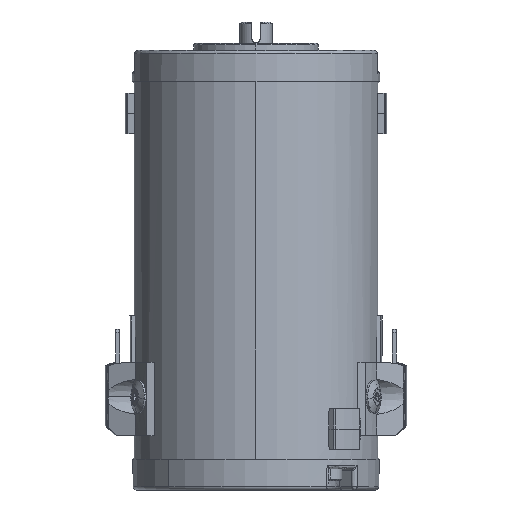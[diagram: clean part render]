
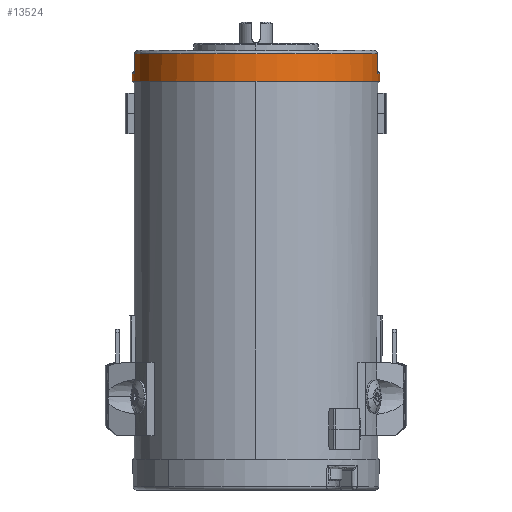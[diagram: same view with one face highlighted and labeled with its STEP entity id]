
A CAD part, left-side view. The second image highlights one B-rep face of the part: STEP entity #13524.
In plain terms, the highlighted conical face has half-angle 1 degrees and reference radius 36.66 mm.
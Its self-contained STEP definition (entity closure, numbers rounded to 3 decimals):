
#571 = VERTEX_POINT ( 'NONE', #1331 ) ;
#639 = ORIENTED_EDGE ( 'NONE', *, *, #2889, .T. ) ;
#788 = CARTESIAN_POINT ( 'NONE',  ( 8.314, 77.377, 70.089 ) ) ;
#895 = CARTESIAN_POINT ( 'NONE',  ( 8.277, 5.267, 72.089 ) ) ;
#1219 = EDGE_CURVE ( 'NONE', #15202, #3963, #13786, .T. ) ;
#1331 = CARTESIAN_POINT ( 'NONE',  ( 14.614, 77.961, 67.921 ) ) ;
#1824 = CARTESIAN_POINT ( 'NONE',  ( 14.614, 41.301, 76.089 ) ) ;
#2158 = ORIENTED_EDGE ( 'NONE', *, *, #1219, .F. ) ;
#2564 = CARTESIAN_POINT ( 'NONE',  ( 14.614, 41.301, 67.921 ) ) ;
#2889 = EDGE_CURVE ( 'NONE', #15202, #10375, #11681, .T. ) ;
#3003 = CIRCLE ( 'NONE', #19947, 36.517 ) ;
#3637 = EDGE_CURVE ( 'NONE', #10375, #26116, #5326, .T. ) ;
#3963 = VERTEX_POINT ( 'NONE', #10908 ) ;
#4272 = ORIENTED_EDGE ( 'NONE', *, *, #12268, .T. ) ;
#4274 = CARTESIAN_POINT ( 'NONE',  ( 14.614, 77.961, 67.921 ) ) ;
#4575 = AXIS2_PLACEMENT_3D ( 'NONE', #9827, #5280, #13825 ) ;
#4626 = CARTESIAN_POINT ( 'NONE',  ( 14.614, 4.641, 67.921 ) ) ;
#4885 = AXIS2_PLACEMENT_3D ( 'NONE', #23834, #28286, #17142 ) ;
#5280 = DIRECTION ( 'NONE',  ( 0., 0., -1. ) ) ;
#5326 = B_SPLINE_CURVE_WITH_KNOTS ( 'NONE', 3,
 ( #16611, #895, #16751, #8152 ),
 .UNSPECIFIED., .F., .F.,
 ( 4, 4 ),
 ( 0., 1. ),
 .UNSPECIFIED. ) ;
#5566 = CARTESIAN_POINT ( 'NONE',  ( 8.205, 77.251, 76.089 ) ) ;
#5610 = EDGE_LOOP ( 'NONE', ( #2158, #639, #22944, #21909, #6855, #22059, #4272, #25199 ) ) ;
#6855 = ORIENTED_EDGE ( 'NONE', *, *, #13316, .T. ) ;
#6968 = DIRECTION ( 'NONE',  ( 0., -0.017, -1. ) ) ;
#7154 = DIRECTION ( 'NONE',  ( 0., 1., 0. ) ) ;
#7188 = CARTESIAN_POINT ( 'NONE',  ( 8.205, 77.251, 76.089 ) ) ;
#7430 = CARTESIAN_POINT ( 'NONE',  ( 14.614, 4.679, 70.089 ) ) ;
#7441 = VECTOR ( 'NONE', #24438, 1000. ) ;
#7480 = CARTESIAN_POINT ( 'NONE',  ( 8.241, 77.293, 74.089 ) ) ;
#7906 = AXIS2_PLACEMENT_3D ( 'NONE', #13513, #11745, #7154 ) ;
#8023 = VECTOR ( 'NONE', #6968, 1000. ) ;
#8152 = CARTESIAN_POINT ( 'NONE',  ( 8.205, 5.35, 76.089 ) ) ;
#9437 = EDGE_CURVE ( 'NONE', #13394, #26116, #3003, .T. ) ;
#9827 = CARTESIAN_POINT ( 'NONE',  ( 14.614, 41.301, 70.089 ) ) ;
#10375 = VERTEX_POINT ( 'NONE', #27964 ) ;
#10908 = CARTESIAN_POINT ( 'NONE',  ( 14.614, 4.641, 67.921 ) ) ;
#10945 = B_SPLINE_CURVE_WITH_KNOTS ( 'NONE', 3,
 ( #7188, #7480, #16505, #788 ),
 .UNSPECIFIED., .F., .F.,
 ( 4, 4 ),
 ( 0., 1. ),
 .UNSPECIFIED. ) ;
#11681 = CIRCLE ( 'NONE', #4575, 36.622 ) ;
#11745 = DIRECTION ( 'NONE',  ( 0., 0., -1. ) ) ;
#12201 = CIRCLE ( 'NONE', #25790, 36.66 ) ;
#12268 = EDGE_CURVE ( 'NONE', #28087, #571, #15484, .T. ) ;
#12556 = EDGE_CURVE ( 'NONE', #571, #3963, #12201, .T. ) ;
#13316 = EDGE_CURVE ( 'NONE', #13394, #13938, #10945, .T. ) ;
#13394 = VERTEX_POINT ( 'NONE', #5566 ) ;
#13513 = CARTESIAN_POINT ( 'NONE',  ( 14.614, 41.301, 67.921 ) ) ;
#13524 = ADVANCED_FACE ( 'NONE', ( #24658 ), #14515, .T. ) ;
#13786 = LINE ( 'NONE', #4626, #8023 ) ;
#13825 = DIRECTION ( 'NONE',  ( 1., 0., 0. ) ) ;
#13938 = VERTEX_POINT ( 'NONE', #17276 ) ;
#14515 = CONICAL_SURFACE ( 'NONE', #7906, 36.66, 0.017 ) ;
#15202 = VERTEX_POINT ( 'NONE', #7430 ) ;
#15484 = LINE ( 'NONE', #4274, #7441 ) ;
#16202 = DIRECTION ( 'NONE',  ( 0., 1., 0. ) ) ;
#16505 = CARTESIAN_POINT ( 'NONE',  ( 8.277, 77.335, 72.089 ) ) ;
#16611 = CARTESIAN_POINT ( 'NONE',  ( 8.314, 5.225, 70.089 ) ) ;
#16751 = CARTESIAN_POINT ( 'NONE',  ( 8.241, 5.309, 74.089 ) ) ;
#17142 = DIRECTION ( 'NONE',  ( 1., 0., 0. ) ) ;
#17276 = CARTESIAN_POINT ( 'NONE',  ( 8.314, 77.377, 70.089 ) ) ;
#17595 = CIRCLE ( 'NONE', #4885, 36.622 ) ;
#18837 = DIRECTION ( 'NONE',  ( 0., 0., 1. ) ) ;
#18965 = CARTESIAN_POINT ( 'NONE',  ( 8.205, 5.35, 76.089 ) ) ;
#19202 = CARTESIAN_POINT ( 'NONE',  ( 14.614, 77.923, 70.089 ) ) ;
#19301 = DIRECTION ( 'NONE',  ( 0., 0., 1. ) ) ;
#19947 = AXIS2_PLACEMENT_3D ( 'NONE', #1824, #19301, #24111 ) ;
#21909 = ORIENTED_EDGE ( 'NONE', *, *, #9437, .F. ) ;
#22059 = ORIENTED_EDGE ( 'NONE', *, *, #27669, .T. ) ;
#22944 = ORIENTED_EDGE ( 'NONE', *, *, #3637, .T. ) ;
#23834 = CARTESIAN_POINT ( 'NONE',  ( 14.614, 41.301, 70.089 ) ) ;
#24111 = DIRECTION ( 'NONE',  ( 1., 0., 0. ) ) ;
#24438 = DIRECTION ( 'NONE',  ( 0., 0.017, -1. ) ) ;
#24658 = FACE_OUTER_BOUND ( 'NONE', #5610, .T. ) ;
#25199 = ORIENTED_EDGE ( 'NONE', *, *, #12556, .T. ) ;
#25790 = AXIS2_PLACEMENT_3D ( 'NONE', #2564, #18837, #16202 ) ;
#26116 = VERTEX_POINT ( 'NONE', #18965 ) ;
#27669 = EDGE_CURVE ( 'NONE', #13938, #28087, #17595, .T. ) ;
#27964 = CARTESIAN_POINT ( 'NONE',  ( 8.314, 5.225, 70.089 ) ) ;
#28087 = VERTEX_POINT ( 'NONE', #19202 ) ;
#28286 = DIRECTION ( 'NONE',  ( 0., 0., -1. ) ) ;
